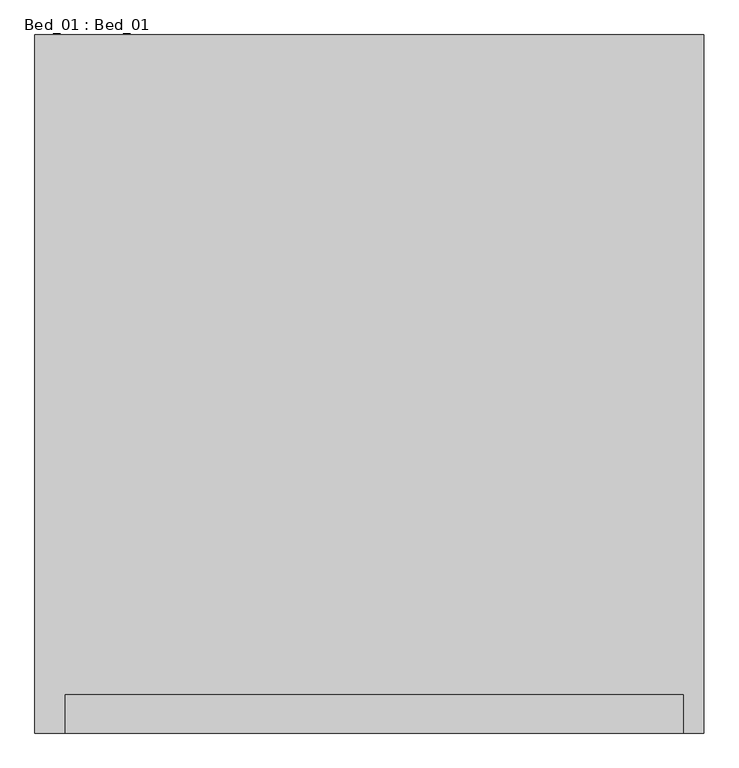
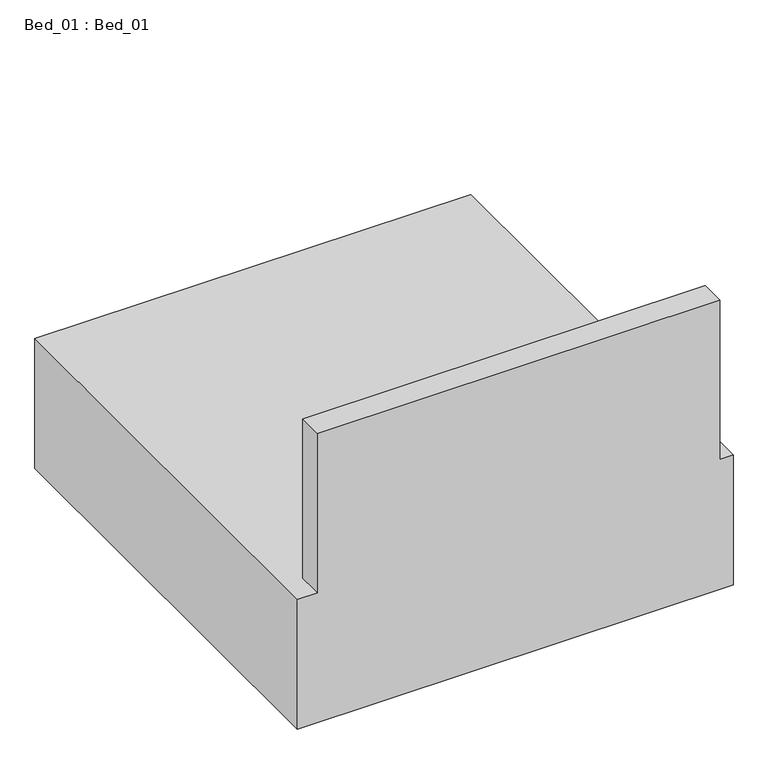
"""IFC4 building model written with IfcOpenShell, lengths in millimetres: furniture geometry, Bed_01 : Bed_01."""

from ifc_helpers import new_model, si_unit, origin, place, context, project, spatial, faceted_brep, source, transform, mapped, element, save


def bed_01_bed_01_c8895752(model_context):
    return source(origin(), model_context, "Body", "Brep", [
        faceted_brep([(977.0323262, 966.4797147, 616.11436), (-977.0323262, 966.4797147, 616.11436), (-977.0323262, -1073.5202853, 616.11436), (-888.8078974, -1073.5202853, 616.11436), (-888.8078974, -961.0906652, 616.11436), (917.6298481, -961.0906652, 616.11436), (917.6298481, -1073.5202853, 616.11436), (977.0323262, -1073.5202853, 616.11436), (977.0323262, 966.4797147, 0.0), (977.0323262, -1073.5202853, 0.0), (-977.0323262, -1073.5202853, 0.0), (-977.0323262, 966.4797147, 0.0), (917.6298481, -1073.5202853, 1373.1781562), (-888.8078974, -1073.5202853, 1373.1781562), (917.6298481, -961.0906652, 1373.1781562), (-888.8078974, -961.0906652, 1373.1781562)], [[[0, 1, 2, 3, 4, 5, 6, 7]], [[8, 9, 10, 11]], [[1, 0, 8, 11]], [[2, 1, 11, 10]], [[10, 9, 7, 6, 12, 13, 3, 2]], [[0, 7, 9, 8]], [[14, 15, 13, 12]], [[15, 14, 5, 4]], [[13, 15, 4, 3]], [[14, 12, 6, 5]]]),
    ])


if __name__ == "__main__":
    model = new_model("IFC4")
    model_context = context("Model", 3, world=origin())
    ifc_project = project(units=[si_unit("LENGTHUNIT", "METRE", prefix="MILLI")], contexts=[model_context])
    site = spatial("IfcSite", under=ifc_project)
    building = spatial("IfcBuilding", under=site)
    placement = place(None, origin())
    bed_01_bed_01_shape = bed_01_bed_01_c8895752(model_context)
    element("IfcFurniture", 1, ObjectType="Bed_01 : Bed_01", at=placement, inside=building, context=model_context, shape_type="MappedRepresentation", body=[
        mapped(bed_01_bed_01_shape, transform((0.0, 0.0, 0.0), x_axis=(1.0, 0.0, 0.0), y_axis=(0.0, 1.0, 0.0), z_axis=(0.0, 0.0, 1.0))),
    ])
    save(model, "model.ifc")
